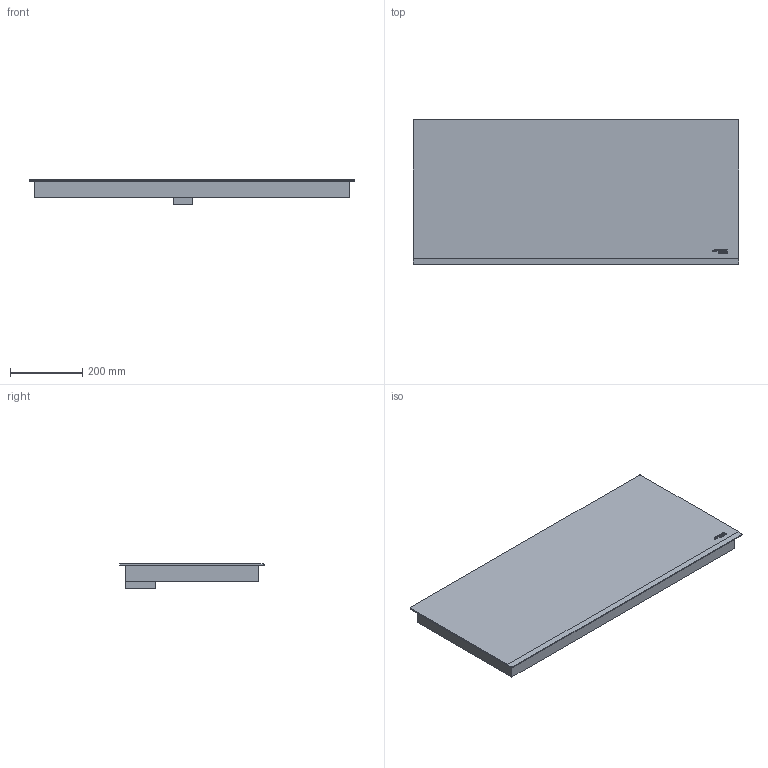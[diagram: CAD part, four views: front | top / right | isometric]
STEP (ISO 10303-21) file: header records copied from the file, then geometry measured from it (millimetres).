
FILE_DESCRIPTION(('CATIA V5 STEP'),'2;1');
FILE_NAME('Q:\Work\LeyhBjo\Picture Models\180206_Eftimie\949594447\949594447_SIH7933B.stp','2018-03-16T07:20:54+00:00',('none'),('Electrolux'),'CATIA Version 5-6 Release 2014 SP5','CATIA V5 STEP AP203','none');
FILE_SCHEMA(('CONFIG_CONTROL_DESIGN'));
Length unit declared in the file: millimetre
Products named in the file (2): M0194600; M0047679
Assembly tree (3 placements, depth 3):
  M0194600
    M0047679
      #65
    #9111
Bounding box: 900 x 400 x 69.7 mm (x, y, z)
Volume: 16042150.9 mm3; surface area: 1495686.6 mm2
Topology: 2 solids, 2 shells, 288 faces, 791 edges, 525 vertices
Faces by surface type: extrusion 151, plane 133, cylinder 4
Entity records: 9703 total; most frequent: CARTESIAN_POINT 3152, ORIENTED_EDGE 1570, DIRECTION 798, EDGE_CURVE 785, VECTOR 616, VERTEX_POINT 522, B_SPLINE_CURVE_WITH_KNOTS 465, LINE 465
